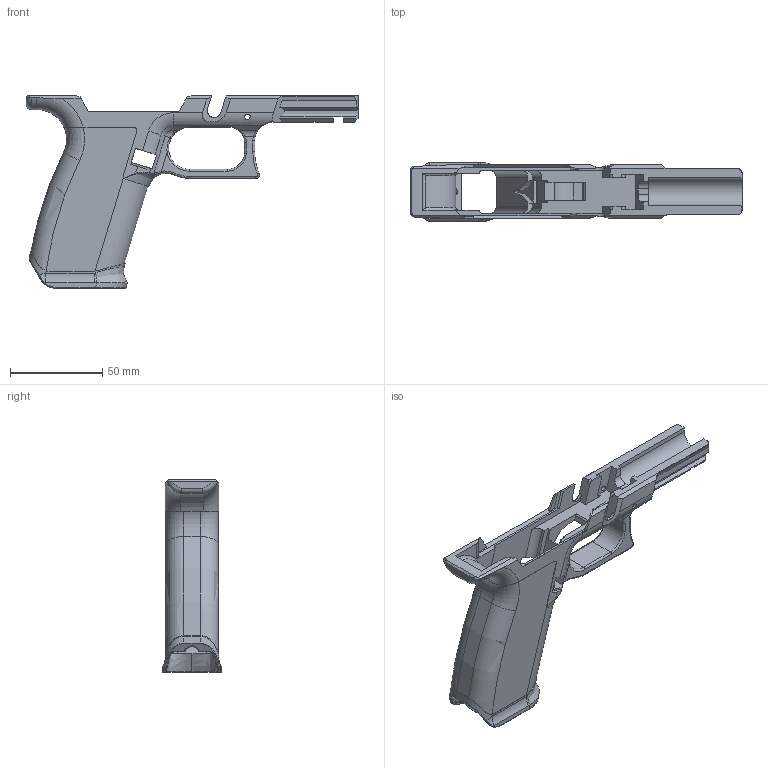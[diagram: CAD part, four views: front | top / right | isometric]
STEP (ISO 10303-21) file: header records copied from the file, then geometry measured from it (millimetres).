
FILE_DESCRIPTION(/* description */ (''),/* implementation_level */ '2;1');
FILE_NAME(/* name */ '120G X MOD1.step',/* time_stamp */ '2026-02-20T18:41:51-06:00',/* author */ (''),/* organization */ (''),/* preprocessor_version */ 'ST-DEVELOPER v20.1',/* originating_system */ 'Autodesk Translation Framework v14.24.0.0',/* authorisation */ '');
FILE_SCHEMA (('AUTOMOTIVE_DESIGN { 1 0 10303 214 3 1 1 }'));
Length unit declared in the file: millimetre
Products named in the file (1): PDW for CNC v1
Bounding box: 180.27 x 32 x 104.58 mm (x, y, z)
Volume: 74173.9 mm3; surface area: 42409 mm2
Topology: 1 solids, 2 shells, 406 faces, 1148 edges, 733 vertices
Faces by surface type: plane 160, cylinder 119, bspline 95, torus 28, sphere 2, cone 2
Full cylindrical faces by diameter (mm): 3 x2, 4.5 x1
Entity records: 17194 total; most frequent: CARTESIAN_POINT 7041, ORIENTED_EDGE 2288, DIRECTION 1891, EDGE_CURVE 1144, VERTEX_POINT 733, AXIS2_PLACEMENT_3D 659, LINE 573, VECTOR 573
